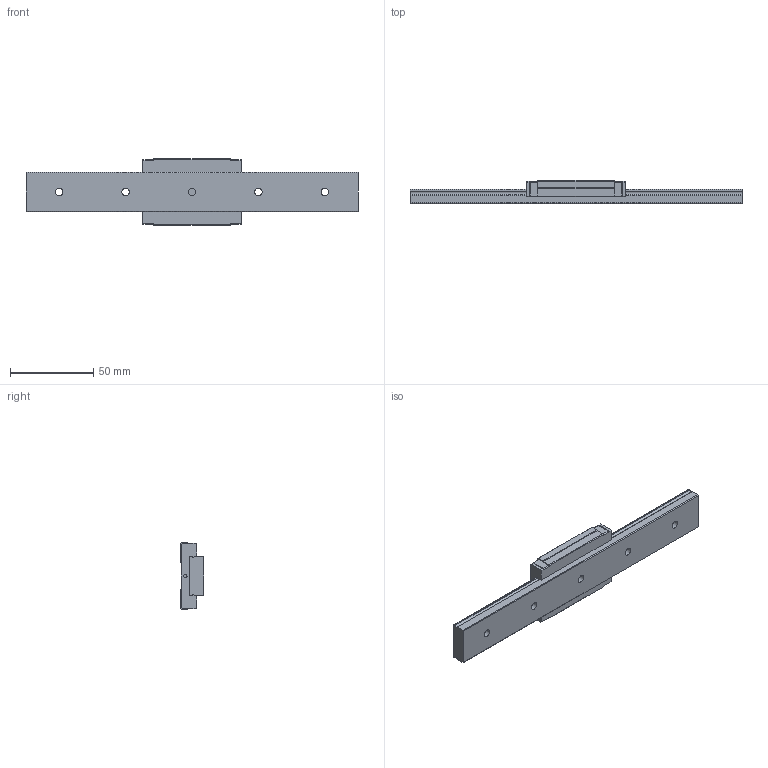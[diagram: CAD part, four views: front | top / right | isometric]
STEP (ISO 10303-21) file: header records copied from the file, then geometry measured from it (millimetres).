
FILE_DESCRIPTION(/* description */ ('STEP AP203'),/* implementation_level */ '2;1');
FILE_NAME(/* name */ 'RSX12M1WNUUE-200LM_G20_0_Without grease nipple_70-25_0_0_0_1',/* time_stamp */ '2024-05-23T08:37:04+02:00',/* author */ ('License CC BY-ND 4.0'),/* organization */ ('CADENAS'),/* preprocessor_version */ 'ST-DEVELOPER v19.3',/* originating_system */ 'PARTsolutions',/* authorisation */ ' ');
FILE_SCHEMA (('CONFIG_CONTROL_DESIGN'));
Length unit declared in the file: millimetre
Products named in the file (3): RSX12M1WNUUE-200LM_G20_0_Without grease nipple_70-25_0_0_0_1; RSX12M1W20020 Track; RSX12M1WNUU1 Slider
Assembly tree (2 placements, depth 2):
  RSX12M1WNUUE-200LM_G20_0_Without grease nipple_70-25_0_0_0_1
    RSX12M1W20020 Track
    RSX12M1WNUU1 Slider
Bounding box: 200 x 14 x 40 mm (x, y, z)
Volume: 55137.2 mm3; surface area: 21323.9 mm2
Topology: 2 solids, 2 shells, 119 faces, 312 edges, 204 vertices
Faces by surface type: plane 83, cylinder 28, cone 8
Full cylindrical faces by diameter (mm): 2 x2, 2.459 x4, 4.5 x5, 8 x5
Entity records: 3549 total; most frequent: CARTESIAN_POINT 602, DIRECTION 584, ORIENTED_EDGE 560, EDGE_CURVE 280, LINE 220, VECTOR 220, VERTEX_POINT 200, AXIS2_PLACEMENT_3D 182
